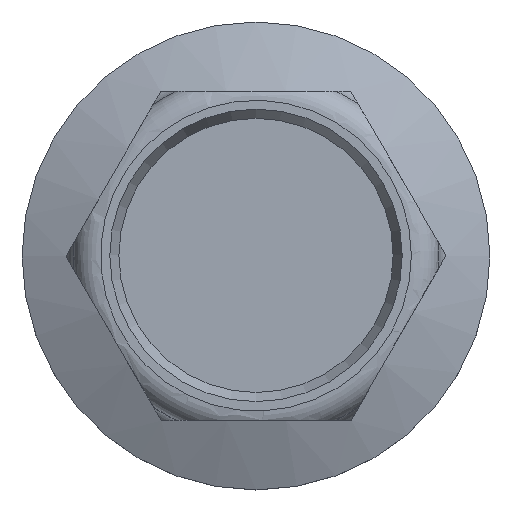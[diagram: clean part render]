
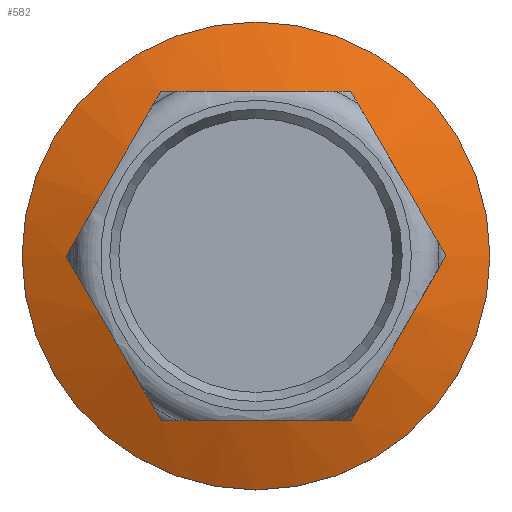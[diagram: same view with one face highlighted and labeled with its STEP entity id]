
A CAD part, top view. The second image highlights one B-rep face of the part: STEP entity #582.
In plain terms, the highlighted conical face has half-angle 66.679 degrees and reference radius 10.16 mm.
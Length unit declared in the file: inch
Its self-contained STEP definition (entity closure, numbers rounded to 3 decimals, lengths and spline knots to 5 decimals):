
#24=CONICAL_SURFACE('',#631,0.4,66.679);
#26=(
BOUNDED_CURVE()
B_SPLINE_CURVE(2,(#1080,#1081,#1082),.UNSPECIFIED.,.F.,.F.)
B_SPLINE_CURVE_WITH_KNOTS((3,3),(0.,0.83037),.UNSPECIFIED.)
CURVE()
GEOMETRIC_REPRESENTATION_ITEM()
RATIONAL_B_SPLINE_CURVE((1.,1.155,1.))
REPRESENTATION_ITEM('')
);
#27=(
BOUNDED_CURVE()
B_SPLINE_CURVE(2,(#1087,#1088,#1089),.UNSPECIFIED.,.F.,.F.)
B_SPLINE_CURVE_WITH_KNOTS((3,3),(0.,0.83037),.UNSPECIFIED.)
CURVE()
GEOMETRIC_REPRESENTATION_ITEM()
RATIONAL_B_SPLINE_CURVE((1.,1.155,1.))
REPRESENTATION_ITEM('')
);
#28=(
BOUNDED_CURVE()
B_SPLINE_CURVE(2,(#1093,#1094,#1095),.UNSPECIFIED.,.F.,.F.)
B_SPLINE_CURVE_WITH_KNOTS((3,3),(0.,0.83037),.UNSPECIFIED.)
CURVE()
GEOMETRIC_REPRESENTATION_ITEM()
RATIONAL_B_SPLINE_CURVE((1.,1.155,1.))
REPRESENTATION_ITEM('')
);
#29=(
BOUNDED_CURVE()
B_SPLINE_CURVE(2,(#3055,#3056,#3057),.UNSPECIFIED.,.F.,.F.)
B_SPLINE_CURVE_WITH_KNOTS((3,3),(0.,0.83037),.UNSPECIFIED.)
CURVE()
GEOMETRIC_REPRESENTATION_ITEM()
RATIONAL_B_SPLINE_CURVE((1.,1.155,1.))
REPRESENTATION_ITEM('')
);
#30=(
BOUNDED_CURVE()
B_SPLINE_CURVE(2,(#3061,#3062,#3063),.UNSPECIFIED.,.F.,.F.)
B_SPLINE_CURVE_WITH_KNOTS((3,3),(0.,0.83037),.UNSPECIFIED.)
CURVE()
GEOMETRIC_REPRESENTATION_ITEM()
RATIONAL_B_SPLINE_CURVE((1.,1.155,1.))
REPRESENTATION_ITEM('')
);
#31=(
BOUNDED_CURVE()
B_SPLINE_CURVE(2,(#3066,#3067,#3068),.UNSPECIFIED.,.F.,.F.)
B_SPLINE_CURVE_WITH_KNOTS((3,3),(0.,0.83037),.UNSPECIFIED.)
CURVE()
GEOMETRIC_REPRESENTATION_ITEM()
RATIONAL_B_SPLINE_CURVE((1.,1.155,1.))
REPRESENTATION_ITEM('')
);
#101=FACE_BOUND('',#176,.T.);
#136=FACE_OUTER_BOUND('',#175,.T.);
#175=EDGE_LOOP('',(#517));
#176=EDGE_LOOP('',(#518,#519,#520,#521,#522,#523));
#205=CIRCLE('',#632,0.4);
#270=VERTEX_POINT('',#1077);
#271=VERTEX_POINT('',#1079);
#272=VERTEX_POINT('',#1085);
#273=VERTEX_POINT('',#1091);
#290=VERTEX_POINT('',#3054);
#291=VERTEX_POINT('',#3060);
#292=VERTEX_POINT('',#3071);
#340=EDGE_CURVE('',#271,#270,#26,.T.);
#343=EDGE_CURVE('',#270,#272,#27,.T.);
#345=EDGE_CURVE('',#272,#273,#28,.T.);
#369=EDGE_CURVE('',#290,#271,#29,.T.);
#371=EDGE_CURVE('',#291,#290,#30,.T.);
#373=EDGE_CURVE('',#273,#291,#31,.T.);
#374=EDGE_CURVE('',#292,#292,#205,.T.);
#517=ORIENTED_EDGE('',*,*,#374,.T.);
#518=ORIENTED_EDGE('',*,*,#343,.T.);
#519=ORIENTED_EDGE('',*,*,#345,.T.);
#520=ORIENTED_EDGE('',*,*,#373,.T.);
#521=ORIENTED_EDGE('',*,*,#371,.T.);
#522=ORIENTED_EDGE('',*,*,#369,.T.);
#523=ORIENTED_EDGE('',*,*,#340,.T.);
#582=ADVANCED_FACE('',(#136,#101),#24,.T.);
#631=AXIS2_PLACEMENT_3D('',#3070,#750,#751);
#632=AXIS2_PLACEMENT_3D('',#3072,#752,#753);
#750=DIRECTION('center_axis',(0.,0.,-1.));
#751=DIRECTION('ref_axis',(1.,0.,0.));
#752=DIRECTION('center_axis',(0.,0.,1.));
#753=DIRECTION('ref_axis',(1.,0.,0.));
#1077=CARTESIAN_POINT('',(0.32476,0.00047,-0.28006));
#1079=CARTESIAN_POINT('',(0.16197,0.28149,-0.28006));
#1080=CARTESIAN_POINT('Ctrl Pts',(0.16197,0.28149,-0.28006));
#1081=CARTESIAN_POINT('Ctrl Pts',(0.24337,0.14098,-0.24506));
#1082=CARTESIAN_POINT('Ctrl Pts',(0.32476,0.00047,
-0.28006));
#1085=CARTESIAN_POINT('',(0.16279,-0.28101,-0.28006));
#1087=CARTESIAN_POINT('Ctrl Pts',(0.32476,0.00047,
-0.28006));
#1088=CARTESIAN_POINT('Ctrl Pts',(0.24377,-0.14027,-0.24506));
#1089=CARTESIAN_POINT('Ctrl Pts',(0.16279,-0.28101,-0.28006));
#1091=CARTESIAN_POINT('',(-0.16197,-0.28149,-0.28006));
#1093=CARTESIAN_POINT('Ctrl Pts',(0.16279,-0.28101,-0.28006));
#1094=CARTESIAN_POINT('Ctrl Pts',(0.00041,-0.28125,
-0.24506));
#1095=CARTESIAN_POINT('Ctrl Pts',(-0.16197,-0.28149,
-0.28006));
#3054=CARTESIAN_POINT('',(-0.16279,0.28101,-0.28006));
#3055=CARTESIAN_POINT('Ctrl Pts',(-0.16279,0.28101,
-0.28006));
#3056=CARTESIAN_POINT('Ctrl Pts',(-0.00041,0.28125,
-0.24506));
#3057=CARTESIAN_POINT('Ctrl Pts',(0.16197,0.28149,-0.28006));
#3060=CARTESIAN_POINT('',(-0.32476,-0.00047,-0.28006));
#3061=CARTESIAN_POINT('Ctrl Pts',(-0.32476,-0.00047,
-0.28006));
#3062=CARTESIAN_POINT('Ctrl Pts',(-0.24377,0.14027,
-0.24506));
#3063=CARTESIAN_POINT('Ctrl Pts',(-0.16279,0.28101,-0.28006));
#3066=CARTESIAN_POINT('Ctrl Pts',(-0.16197,-0.28149,
-0.28006));
#3067=CARTESIAN_POINT('Ctrl Pts',(-0.24337,-0.14098,
-0.24506));
#3068=CARTESIAN_POINT('Ctrl Pts',(-0.32476,-0.00047,
-0.28006));
#3070=CARTESIAN_POINT('Origin',(0.,0.,-0.3125));
#3071=CARTESIAN_POINT('',(0.4,0.,-0.3125));
#3072=CARTESIAN_POINT('Origin',(0.,0.,-0.3125));
